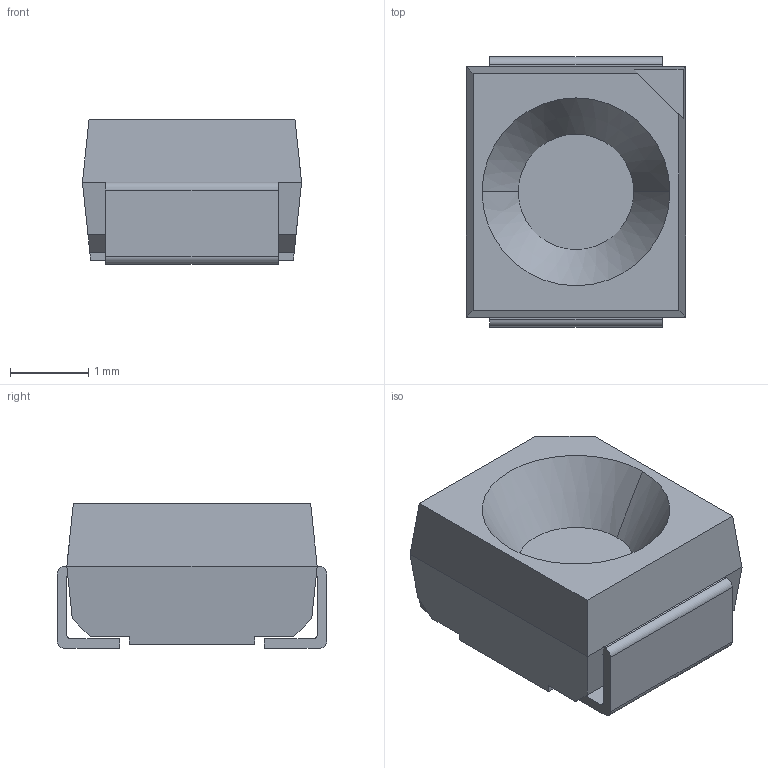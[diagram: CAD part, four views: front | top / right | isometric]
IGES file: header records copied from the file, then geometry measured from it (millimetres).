
Start section: 3D InterOp IGES (Version 20 0 3), Spatial Corp. Copyright (c) 1999-2007.
Global section: file name: DRA-NJS.igs; native system: Spatial Corp.; preprocessor: 3D InterOp ACIS/IGES; author: Noname; organization: Noname; date: 20180329.090300; units: millimetre
Bounding box: 2.8 x 3.45 x 1.85 mm (x, y, z)
Surface area: 69.7 mm2 (no closed solid volume)
Topology: 0 solids, 0 shells, 47 faces, 232 edges, 232 vertices
Faces by surface type: extrusion 35, revolution 12
